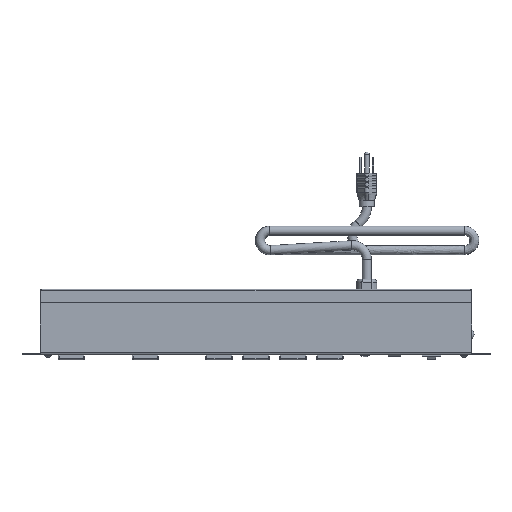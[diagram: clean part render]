
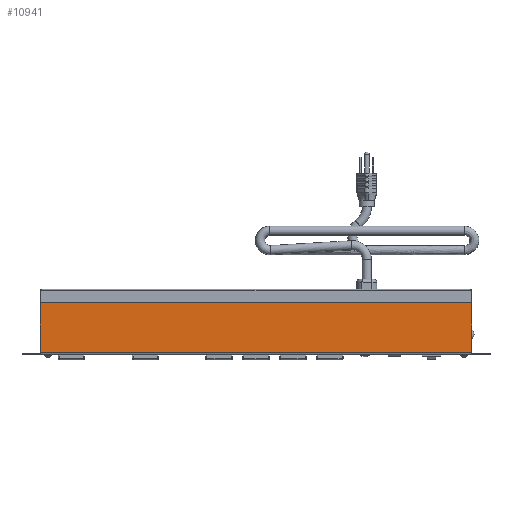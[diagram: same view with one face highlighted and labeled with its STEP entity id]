
A CAD part, front view. The second image highlights one B-rep face of the part: STEP entity #10941.
In plain terms, the highlighted planar face has unit normal (0, -1, 0).
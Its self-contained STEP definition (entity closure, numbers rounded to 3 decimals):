
#728=PLANE('',#11842);
#1104=FACE_OUTER_BOUND('',#1745,.T.);
#1745=EDGE_LOOP('',(#7836,#7837,#7838,#7839));
#2523=LINE('',#15849,#3589);
#2527=LINE('',#15859,#3593);
#2534=LINE('',#15875,#3600);
#2536=LINE('',#15878,#3602);
#3589=VECTOR('',#12976,10.);
#3593=VECTOR('',#12986,1.699);
#3600=VECTOR('',#13005,10.);
#3602=VECTOR('',#13009,10.);
#4901=VERTEX_POINT('',#15847);
#4902=VERTEX_POINT('',#15848);
#4905=VERTEX_POINT('',#15857);
#4908=VERTEX_POINT('',#15874);
#6018=EDGE_CURVE('',#4901,#4902,#2523,.T.);
#6024=EDGE_CURVE('',#4905,#4902,#2527,.T.);
#6033=EDGE_CURVE('',#4901,#4908,#2534,.T.);
#6035=EDGE_CURVE('',#4908,#4905,#2536,.T.);
#7836=ORIENTED_EDGE('',*,*,#6018,.T.);
#7837=ORIENTED_EDGE('',*,*,#6024,.F.);
#7838=ORIENTED_EDGE('',*,*,#6035,.F.);
#7839=ORIENTED_EDGE('',*,*,#6033,.F.);
#10941=ADVANCED_FACE('',(#1104),#728,.F.);
#11842=AXIS2_PLACEMENT_3D('',#15879,#13010,#13011);
#12976=DIRECTION('',(1.,0.,0.));
#12986=DIRECTION('',(0.,0.,-1.));
#13005=DIRECTION('',(0.,0.,1.));
#13009=DIRECTION('',(1.,0.,0.));
#13010=DIRECTION('center_axis',(0.,1.,0.));
#13011=DIRECTION('ref_axis',(1.,0.,0.));
#15847=CARTESIAN_POINT('',(-222.25,-21.819,2.588));
#15848=CARTESIAN_POINT('',(222.25,-21.819,2.588));
#15849=CARTESIAN_POINT('',(0.,-21.819,2.588));
#15857=CARTESIAN_POINT('',(222.25,-21.819,53.975));
#15859=CARTESIAN_POINT('',(222.25,-21.819,-2.748));
#15874=CARTESIAN_POINT('',(-222.25,-21.819,53.975));
#15875=CARTESIAN_POINT('',(-222.25,-21.819,2.588));
#15878=CARTESIAN_POINT('',(-222.25,-21.819,53.975));
#15879=CARTESIAN_POINT('Origin',(0.,-21.819,26.947));
